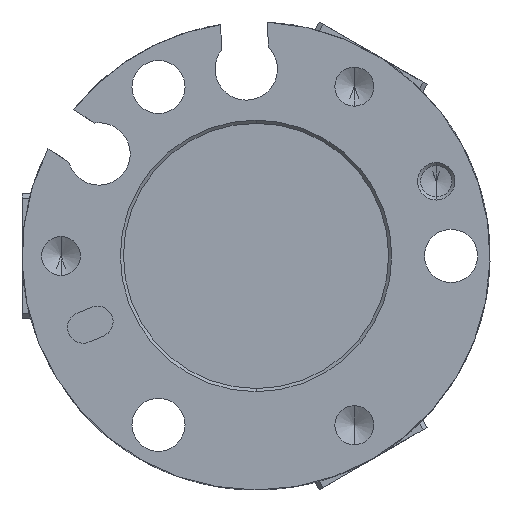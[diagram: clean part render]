
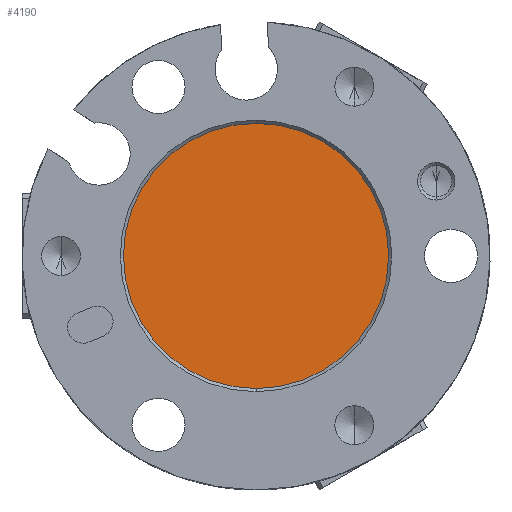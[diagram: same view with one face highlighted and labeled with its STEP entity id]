
A CAD part, front view. The second image highlights one B-rep face of the part: STEP entity #4190.
In plain terms, the highlighted planar face has unit normal (0, -1, 0).
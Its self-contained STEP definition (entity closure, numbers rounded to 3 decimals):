
#4190 = ADVANCED_FACE ( 'NONE', ( #41358 ), #40903, .T. ) ;
#4631 = CARTESIAN_POINT ( 'NONE',  ( 0., 1.5, 0. ) ) ;
#7454 = CARTESIAN_POINT ( 'NONE',  ( 0., 1.5, -8.5 ) ) ;
#9940 = VERTEX_POINT ( 'NONE', #27253 ) ;
#11620 = AXIS2_PLACEMENT_3D ( 'NONE', #4631, #46138, #15046 ) ;
#13316 = AXIS2_PLACEMENT_3D ( 'NONE', #58155, #27167, #63347 ) ;
#14996 = AXIS2_PLACEMENT_3D ( 'NONE', #25461, #61642, #30642 ) ;
#15046 = DIRECTION ( 'NONE',  ( 0., 0., -1. ) ) ;
#15376 = EDGE_CURVE ( 'NONE', #61646, #9940, #38713, .T. ) ;
#23260 = EDGE_LOOP ( 'NONE', ( #59670, #23810 ) ) ;
#23810 = ORIENTED_EDGE ( 'NONE', *, *, #42369, .T. ) ;
#25461 = CARTESIAN_POINT ( 'NONE',  ( 0., 1.5, 0. ) ) ;
#27167 = DIRECTION ( 'NONE',  ( 0., -1., 0. ) ) ;
#27253 = CARTESIAN_POINT ( 'NONE',  ( 0., 1.5, 8.5 ) ) ;
#28816 = CIRCLE ( 'NONE', #13316, 8.5 ) ;
#30642 = DIRECTION ( 'NONE',  ( 0., 0., -1. ) ) ;
#38713 = CIRCLE ( 'NONE', #14996, 8.5 ) ;
#40903 = PLANE ( 'NONE',  #11620 ) ;
#41358 = FACE_OUTER_BOUND ( 'NONE', #23260, .T. ) ;
#42369 = EDGE_CURVE ( 'NONE', #9940, #61646, #28816, .T. ) ;
#46138 = DIRECTION ( 'NONE',  ( 0., -1., 0. ) ) ;
#58155 = CARTESIAN_POINT ( 'NONE',  ( 0., 1.5, 0. ) ) ;
#59670 = ORIENTED_EDGE ( 'NONE', *, *, #15376, .T. ) ;
#61642 = DIRECTION ( 'NONE',  ( 0., -1., 0. ) ) ;
#61646 = VERTEX_POINT ( 'NONE', #7454 ) ;
#63347 = DIRECTION ( 'NONE',  ( 0., 0., -1. ) ) ;
